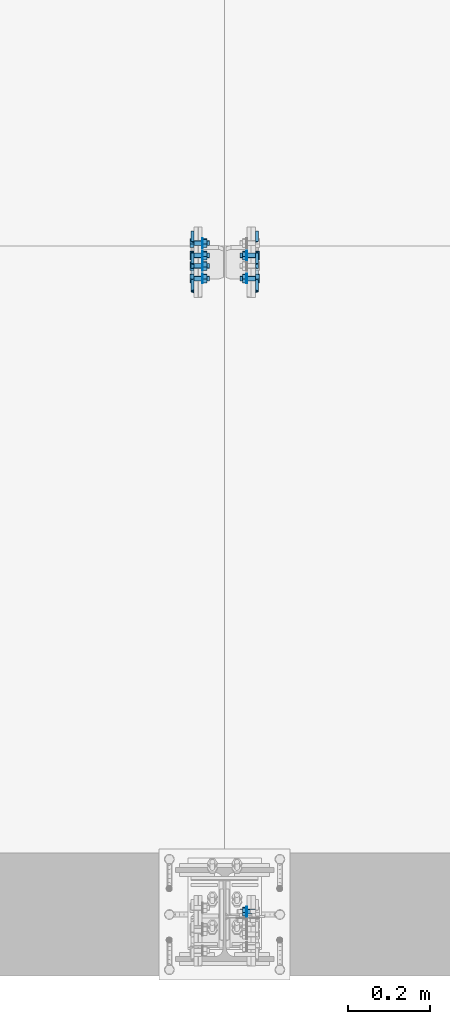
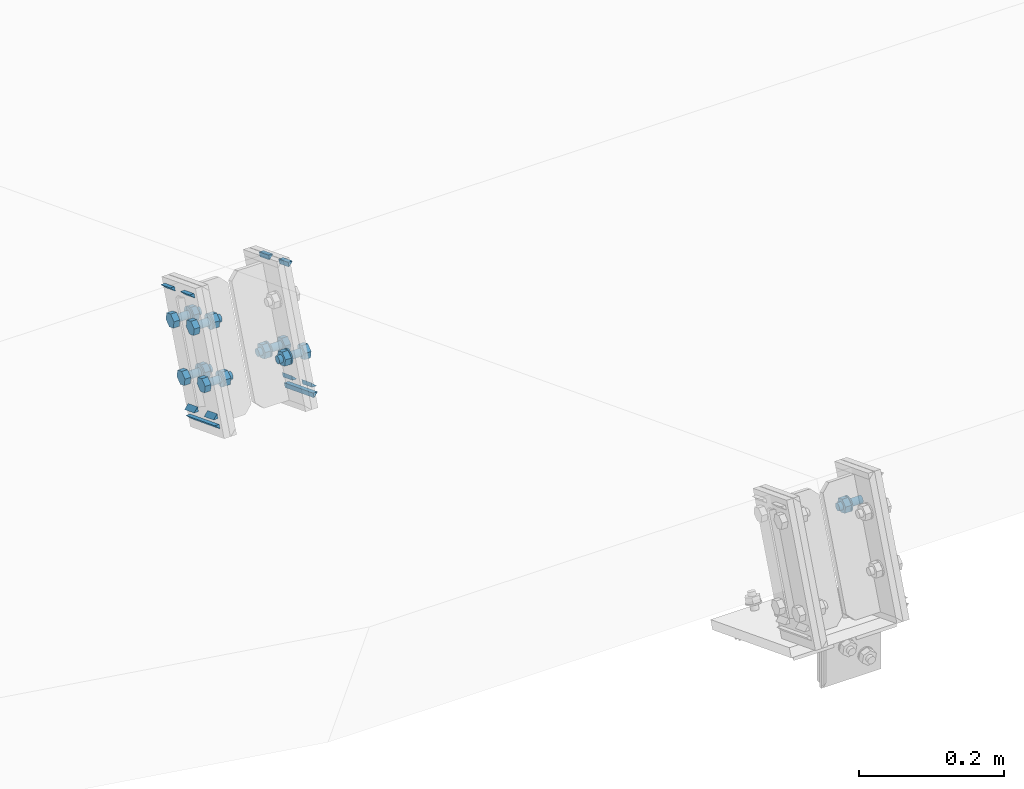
# One storey, part 56 of 72: 27 mechanical fasteners, 20 fasteners.
"""IFC4 building model written with IfcOpenShell, lengths in metres."""

from ifc_helpers import new_model, si_unit, frame, origin_with_axes, place, context, project, spatial, polyline, outline, extrude, type_object, element, save


model = new_model("IFC4")

# Units and contexts
model_context = context("Model", 3, precision=1e-05, world=origin_with_axes())
ifc_project = project(units=[si_unit("LENGTHUNIT", "METRE"), si_unit("AREAUNIT", "SQUARE_METRE"), si_unit("VOLUMEUNIT", "CUBIC_METRE"), si_unit("MASSUNIT", "GRAM", prefix="KILO"), si_unit("TIMEUNIT", "SECOND"), si_unit("PLANEANGLEUNIT", "RADIAN"), si_unit("SOLIDANGLEUNIT", "STERADIAN"), si_unit("THERMODYNAMICTEMPERATUREUNIT", "DEGREE_CELSIUS")], contexts=[model_context])

# Site, building, storey
placement_1 = place(None, origin_with_axes())
site = spatial("IfcSite", under=ifc_project, at=placement_1, Name="Italia", CompositionType="ELEMENT")
building = spatial("IfcBuilding", under=site, at=placement_1, Name="Uffici", CompositionType="ELEMENT")
storey = spatial("IfcBuildingStorey", under=building, at=placement_1, Name="Storey 0", CompositionType="ELEMENT", Elevation=0.0)

# Fasteners
fastener_type_1 = type_object("IfcFastenerType", Name="Collegamento -029_-028", PredefinedType="WELD")
placement_2 = place(placement_1, origin_with_axes())
fastener_1_placement = place(placement_2, origin_with_axes())
element("IfcFastener", 1, at=fastener_1_placement, inside=storey, type_object=fastener_type_1, Name="Collegamento -029_-028", context=model_context, shape_type="SweptSolid", body=[
    extrude(outline(polyline([(0.0, 0.0), (-0.00717354, 0.00695848), (0.0, 0.00695848), (0.0, 0.0)])), frame((9.38005, 1.6679, 6.57674), z_axis=(0.0, -0.932384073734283, 0.361469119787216), x_axis=(1.0, 0.0, 0.0)), (0.0, 0.0, 1.0), 0.0283),
])
fastener_type_2 = type_object("IfcFastenerType", Name="Collegamento -029_-028", PredefinedType="WELD")
fastener_2_placement = place(placement_2, origin_with_axes())
element("IfcFastener", 2, at=fastener_2_placement, inside=storey, type_object=fastener_type_2, Name="Collegamento -029_-028", context=model_context, shape_type="SweptSolid", body=[
    extrude(outline(polyline([(0.0, 0.0), (0.00717354, -0.00695848), (0.0, -0.00695848), (0.0, 0.0)])), frame((9.38005, 1.58036, 6.42922), z_axis=(0.0, 0.932390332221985, -0.361453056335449), x_axis=(-1.0, 0.0, 0.0)), (0.0, 0.0, 1.0), 0.0283),
])
fastener_type_3 = type_object("IfcFastenerType", Name="Collegamento -029_-028", PredefinedType="WELD")
fastener_3_placement = place(placement_2, origin_with_axes())
element("IfcFastener", 3, at=fastener_3_placement, inside=storey, type_object=fastener_type_3, Name="Collegamento -029_-028", context=model_context, shape_type="SweptSolid", body=[
    extrude(outline(polyline([(0.0, 0.0), (-0.00717354, 0.00695753), (0.0, 0.00695753), (0.0, 0.0)])), frame((9.38005, 1.59868, 6.39819), z_axis=(0.0, -0.932389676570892, 0.361454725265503), x_axis=(1.0, 0.0, 0.0)), (0.0, 0.0, 1.0), 0.0861),
])
fastener_type_4 = type_object("IfcFastenerType", Name="Collegamento -029_-028", PredefinedType="WELD")
fastener_4_placement = place(placement_2, origin_with_axes())
element("IfcFastener", 4, at=fastener_4_placement, inside=storey, type_object=fastener_type_4, Name="Collegamento -029_-028", context=model_context, shape_type="SweptSolid", body=[
    extrude(outline(polyline([(0.0, 0.0), (0.00717354, -0.00695848), (0.0, -0.00695848), (0.0, 0.0)])), frame((9.38005, 1.52647, 6.45012), z_axis=(0.0, 0.932391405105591, -0.3614501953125), x_axis=(-1.0, 0.0, 0.0)), (0.0, 0.0, 1.0), 0.0283002),
])
fastener_type_5 = type_object("IfcFastenerType", Name="Collegamento -029_-028", PredefinedType="WELD")
fastener_5_placement = place(placement_2, origin_with_axes())
element("IfcFastener", 5, at=fastener_5_placement, inside=storey, type_object=fastener_type_5, Name="Collegamento -029_-028", context=model_context, shape_type="SweptSolid", body=[
    extrude(outline(polyline([(0.0, 0.0), (-0.00717354, 0.00695753), (0.0, 0.00695753), (0.0, 0.0)])), frame((9.38005, 1.61401, 6.59763), z_axis=(0.0, -0.932389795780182, 0.361454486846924), x_axis=(1.0, 0.0, 0.0)), (0.0, 0.0, 1.0), 0.0282999),
])
fastener_type_6 = type_object("IfcFastenerType", Name="Collegamento -029_-028", PredefinedType="WELD")
fastener_6_placement = place(placement_2, origin_with_axes())
element("IfcFastener", 6, at=fastener_6_placement, inside=storey, type_object=fastener_type_6, Name="Collegamento -029_-028", context=model_context, shape_type="SweptSolid", body=[
    extrude(outline(polyline([(0.0, 0.0), (-0.00717354, 0.00695848), (0.0, 0.00695848), (0.0, 0.0)])), frame((9.38005, 1.6679, 6.57674), z_axis=(0.0, -0.932384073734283, 0.361469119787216), x_axis=(1.0, 0.0, 0.0)), (0.0, 0.0, 1.0), 0.0283),
])
fastener_type_7 = type_object("IfcFastenerType", Name="Collegamento -029_-028", PredefinedType="WELD")
fastener_7_placement = place(placement_2, origin_with_axes())
element("IfcFastener", 7, at=fastener_7_placement, inside=storey, type_object=fastener_type_7, Name="Collegamento -029_-028", context=model_context, shape_type="SweptSolid", body=[
    extrude(outline(polyline([(0.0, 0.0), (0.00717354, -0.00695848), (0.0, -0.00695848), (0.0, 0.0)])), frame((9.38005, 1.58036, 6.42922), z_axis=(0.0, 0.932390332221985, -0.361453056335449), x_axis=(-1.0, 0.0, 0.0)), (0.0, 0.0, 1.0), 0.0283),
])
fastener_type_8 = type_object("IfcFastenerType", Name="Collegamento -029_-028", PredefinedType="WELD")
fastener_8_placement = place(placement_2, origin_with_axes())
element("IfcFastener", 8, at=fastener_8_placement, inside=storey, type_object=fastener_type_8, Name="Collegamento -029_-028", context=model_context, shape_type="SweptSolid", body=[
    extrude(outline(polyline([(0.0, 0.0), (-0.00717354, 0.00695753), (0.0, 0.00695753), (0.0, 0.0)])), frame((9.38005, 1.59868, 6.39819), z_axis=(0.0, -0.932389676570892, 0.361454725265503), x_axis=(1.0, 0.0, 0.0)), (0.0, 0.0, 1.0), 0.0861),
])
fastener_type_9 = type_object("IfcFastenerType", Name="Collegamento -029_-028", PredefinedType="WELD")
fastener_9_placement = place(placement_2, origin_with_axes())
element("IfcFastener", 9, at=fastener_9_placement, inside=storey, type_object=fastener_type_9, Name="Collegamento -029_-028", context=model_context, shape_type="SweptSolid", body=[
    extrude(outline(polyline([(0.0, 0.0), (0.00717354, -0.00695848), (0.0, -0.00695848), (0.0, 0.0)])), frame((9.38005, 1.52647, 6.45012), z_axis=(0.0, 0.932391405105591, -0.3614501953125), x_axis=(-1.0, 0.0, 0.0)), (0.0, 0.0, 1.0), 0.0283002),
])
fastener_type_10 = type_object("IfcFastenerType", Name="Collegamento -029_-028", PredefinedType="WELD")
fastener_10_placement = place(placement_2, origin_with_axes())
element("IfcFastener", 10, at=fastener_10_placement, inside=storey, type_object=fastener_type_10, Name="Collegamento -029_-028", context=model_context, shape_type="SweptSolid", body=[
    extrude(outline(polyline([(0.0, 0.0), (-0.00717354, 0.00695753), (0.0, 0.00695753), (0.0, 0.0)])), frame((9.38005, 1.61401, 6.59763), z_axis=(0.0, -0.932389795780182, 0.361454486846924), x_axis=(1.0, 0.0, 0.0)), (0.0, 0.0, 1.0), 0.0282999),
])

# Mechanical fasteners
mechanical_fastener_type_1 = type_object("IfcMechanicalFastenerType", Name="Collegamento -029_-028", PredefinedType="BOLT")
mechanical_fastener_1_placement = place(placement_2, origin_with_axes())
element("IfcMechanicalFastener", 11, at=mechanical_fastener_1_placement, inside=storey, type_object=mechanical_fastener_type_1, Name="Collegamento -029_-028", NominalDiameter=0.0119998, context=model_context, shape_type="SweptSolid", body=[
    extrude(outline(polyline([(0.0, 0.0), (-0.0111887, -0.00433731), (-0.0205394, 0.00318336), (-0.0187016, 0.0150418), (-0.00751293, 0.0193796), (0.00183785, 0.0118585), (0.0, 0.0)])), frame((9.38, 1.60063, 6.4559), z_axis=(-1.0, 0.0, 0.0), x_axis=(0.0, -1.0, 0.0)), (0.0, 0.0, 1.0), 0.00959969),
])
mechanical_fastener_type_2 = type_object("IfcMechanicalFastenerType", Name="Collegamento -029_-028", PredefinedType="BOLT")
mechanical_fastener_2_placement = place(placement_2, origin_with_axes())
element("IfcMechanicalFastener", 12, at=mechanical_fastener_2_placement, inside=storey, type_object=mechanical_fastener_type_2, Name="Collegamento -029_-028", NominalDiameter=0.012, context=model_context, shape_type="SweptSolid", body=[
    extrude(outline(polyline([(0.0, 0.0), (-0.000204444, -0.00155306), (-0.000803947, -0.00299978), (-0.00175738, -0.00424242), (-0.00300002, -0.00519609), (-0.0044471, -0.00579548), (-0.00600004, -0.00600004), (-0.00755298, -0.00579548), (-0.00900006, -0.00519609), (-0.0102427, -0.00424242), (-0.0111961, -0.00299978), (-0.0117956, -0.00155306), (-0.0120001, 0.0), (-0.0117956, 0.00155306), (-0.0111961, 0.00299978), (-0.0102427, 0.00424242), (-0.00900006, 0.00519609), (-0.00755298, 0.00579548), (-0.00600004, 0.00600004), (-0.0044471, 0.00579548), (-0.00300002, 0.00519609), (-0.00175738, 0.00424242), (-0.000803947, 0.00299978), (-0.000204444, 0.00155306), (0.0, 0.0)])), frame((9.418, 1.60398, 6.46342), z_axis=(-1.0, 0.0, 0.0), x_axis=(0.0, -1.0, 0.0)), (0.0, 0.0, 1.0), 0.0380001),
])
mechanical_fastener_type_3 = type_object("IfcMechanicalFastenerType", Name="Collegamento -029_-028", PredefinedType="BOLT")
mechanical_fastener_3_placement = place(placement_2, origin_with_axes())
element("IfcMechanicalFastener", 13, at=mechanical_fastener_3_placement, inside=storey, type_object=mechanical_fastener_type_3, Name="Collegamento -029_-028", NominalDiameter=0.0119998, context=model_context, shape_type="SweptSolid", body=[
    extrude(outline(polyline([(0.0, 0.0), (-0.0111887, -0.00433731), (-0.0205394, 0.00318336), (-0.0187016, 0.0150418), (-0.00751293, 0.0193796), (0.00183785, 0.0118585), (0.0, 0.0)])), frame((9.4116, 1.60063, 6.4559), z_axis=(-1.0, 0.0, 0.0), x_axis=(0.0, -1.0, 0.0)), (0.0, 0.0, 1.0), 0.00959969),
])
mechanical_fastener_type_4 = type_object("IfcMechanicalFastenerType", Name="Collegamento -029_-028", PredefinedType="BOLT")
mechanical_fastener_4_placement = place(placement_2, origin_with_axes())
element("IfcMechanicalFastener", 14, at=mechanical_fastener_4_placement, inside=storey, type_object=mechanical_fastener_type_4, Name="Collegamento -029_-028", NominalDiameter=0.024, context=model_context, shape_type="SweptSolid", body=[
    extrude(outline(polyline([(0.0, 0.0), (-0.000408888, -0.00310564), (-0.00160766, -0.00600004), (-0.00351465, -0.00848532), (-0.00599992, -0.0103922), (-0.00889409, -0.011591), (-0.012, -0.0120001), (-0.0151058, -0.011591), (-0.018, -0.0103922), (-0.0204853, -0.00848532), (-0.0223923, -0.00600004), (-0.023591, -0.00310564), (-0.0239999, 0.0), (-0.023591, 0.00310564), (-0.0223923, 0.00600004), (-0.0204853, 0.00848532), (-0.018, 0.0103922), (-0.0151058, 0.011591), (-0.012, 0.0120001), (-0.00889409, 0.011591), (-0.00599992, 0.0103922), (-0.00351465, 0.00848532), (-0.00160766, 0.00600004), (-0.000408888, 0.00310564), (0.0, 0.0)])), frame((9.402, 1.59798, 6.46342), z_axis=(-1.0, 0.0, 0.0), x_axis=(0.0, -1.0, 0.0)), (0.0, 0.0, 1.0), 0.00199986),
])
mechanical_fastener_type_5 = type_object("IfcMechanicalFastenerType", Name="Collegamento -029_-028", PredefinedType="BOLT")
mechanical_fastener_5_placement = place(placement_2, origin_with_axes())
element("IfcMechanicalFastener", 15, at=mechanical_fastener_5_placement, inside=storey, type_object=mechanical_fastener_type_5, Name="Collegamento -029_-028", NominalDiameter=0.0119999, context=model_context, shape_type="SweptSolid", body=[
    extrude(outline(polyline([(0.0, 0.0), (-0.0111886, -0.00433779), (-0.0205393, 0.00318336), (-0.0187014, 0.0150418), (-0.00751281, 0.0193791), (0.00183797, 0.0118585), (0.0, 0.0)])), frame((9.38, 1.54468, 6.47759), z_axis=(-1.0, 0.0, 0.0), x_axis=(0.0, -1.0, 0.0)), (0.0, 0.0, 1.0), 0.00959969),
])
mechanical_fastener_type_6 = type_object("IfcMechanicalFastenerType", Name="Collegamento -029_-028", PredefinedType="BOLT")
mechanical_fastener_6_placement = place(placement_2, origin_with_axes())
element("IfcMechanicalFastener", 16, at=mechanical_fastener_6_placement, inside=storey, type_object=mechanical_fastener_type_6, Name="Collegamento -029_-028", NominalDiameter=0.012, context=model_context, shape_type="SweptSolid", body=[
    extrude(outline(polyline([(0.0, 0.0), (-0.000204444, -0.00155306), (-0.000803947, -0.00299978), (-0.00175738, -0.00424242), (-0.00300002, -0.00519609), (-0.0044471, -0.00579548), (-0.00600004, -0.00600004), (-0.00755298, -0.00579548), (-0.00900006, -0.00519609), (-0.0102427, -0.00424242), (-0.0111961, -0.00299978), (-0.0117956, -0.00155306), (-0.0120001, 0.0), (-0.0117956, 0.00155306), (-0.0111961, 0.00299978), (-0.0102427, 0.00424242), (-0.00900006, 0.00519609), (-0.00755298, 0.00579548), (-0.00600004, 0.00600004), (-0.0044471, 0.00579548), (-0.00300002, 0.00519609), (-0.00175738, 0.00424242), (-0.000803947, 0.00299978), (-0.000204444, 0.00155306), (0.0, 0.0)])), frame((9.418, 1.54803, 6.48511), z_axis=(-1.0, 0.0, 0.0), x_axis=(0.0, -1.0, 0.0)), (0.0, 0.0, 1.0), 0.0380001),
])
mechanical_fastener_type_7 = type_object("IfcMechanicalFastenerType", Name="Collegamento -029_-028", PredefinedType="BOLT")
mechanical_fastener_7_placement = place(placement_2, origin_with_axes())
element("IfcMechanicalFastener", 17, at=mechanical_fastener_7_placement, inside=storey, type_object=mechanical_fastener_type_7, Name="Collegamento -029_-028", NominalDiameter=0.0119999, context=model_context, shape_type="SweptSolid", body=[
    extrude(outline(polyline([(0.0, 0.0), (-0.0111886, -0.00433779), (-0.0205393, 0.00318336), (-0.0187014, 0.0150418), (-0.00751281, 0.0193791), (0.00183797, 0.0118585), (0.0, 0.0)])), frame((9.4116, 1.54468, 6.47759), z_axis=(-1.0, 0.0, 0.0), x_axis=(0.0, -1.0, 0.0)), (0.0, 0.0, 1.0), 0.00959969),
])
mechanical_fastener_type_8 = type_object("IfcMechanicalFastenerType", Name="Collegamento -029_-028", PredefinedType="BOLT")
mechanical_fastener_8_placement = place(placement_2, origin_with_axes())
element("IfcMechanicalFastener", 18, at=mechanical_fastener_8_placement, inside=storey, type_object=mechanical_fastener_type_8, Name="Collegamento -029_-028", NominalDiameter=0.024, context=model_context, shape_type="SweptSolid", body=[
    extrude(outline(polyline([(0.0, 0.0), (-0.000408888, -0.00310564), (-0.00160766, -0.00600004), (-0.00351465, -0.00848532), (-0.00599992, -0.0103922), (-0.00889409, -0.011591), (-0.012, -0.0120001), (-0.0151058, -0.011591), (-0.018, -0.0103922), (-0.0204853, -0.00848532), (-0.0223923, -0.00600004), (-0.023591, -0.00310564), (-0.0239999, 0.0), (-0.023591, 0.00310564), (-0.0223923, 0.00600004), (-0.0204853, 0.00848532), (-0.018, 0.0103922), (-0.0151058, 0.011591), (-0.012, 0.0120001), (-0.00889409, 0.011591), (-0.00599992, 0.0103922), (-0.00351465, 0.00848532), (-0.00160766, 0.00600004), (-0.000408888, 0.00310564), (0.0, 0.0)])), frame((9.402, 1.54203, 6.48511), z_axis=(-1.0, 0.0, 0.0), x_axis=(0.0, -1.0, 0.0)), (0.0, 0.0, 1.0), 0.00199986),
])
mechanical_fastener_type_9 = type_object("IfcMechanicalFastenerType", Name="Collegamento -029_-028", PredefinedType="BOLT")
mechanical_fastener_9_placement = place(placement_2, origin_with_axes())
element("IfcMechanicalFastener", 19, at=mechanical_fastener_9_placement, inside=storey, type_object=mechanical_fastener_type_9, Name="Collegamento -029_-028", NominalDiameter=0.0119999, context=model_context, shape_type="SweptSolid", body=[
    extrude(outline(polyline([(0.0, 0.0), (-0.0111886, -0.00433731), (-0.0205394, 0.00318336), (-0.0187014, 0.0150418), (-0.00751281, 0.0193796), (0.00183785, 0.0118585), (0.0, 0.0)])), frame((9.38, 1.63099, 6.53422), z_axis=(-1.0, 0.0, 0.0), x_axis=(0.0, -1.0, 0.0)), (0.0, 0.0, 1.0), 0.00959969),
])
mechanical_fastener_type_10 = type_object("IfcMechanicalFastenerType", Name="Collegamento -029_-028", PredefinedType="BOLT")
mechanical_fastener_10_placement = place(placement_2, origin_with_axes())
element("IfcMechanicalFastener", 20, at=mechanical_fastener_10_placement, inside=storey, type_object=mechanical_fastener_type_10, Name="Collegamento -029_-028", NominalDiameter=0.012, context=model_context, shape_type="SweptSolid", body=[
    extrude(outline(polyline([(0.0, 0.0), (-0.000204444, -0.00155306), (-0.000803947, -0.00299978), (-0.00175738, -0.00424242), (-0.00300002, -0.00519609), (-0.0044471, -0.00579548), (-0.00600004, -0.00600004), (-0.00755298, -0.00579548), (-0.00900006, -0.00519609), (-0.0102427, -0.00424242), (-0.0111961, -0.00299978), (-0.0117956, -0.00155306), (-0.0120001, 0.0), (-0.0117956, 0.00155306), (-0.0111961, 0.00299978), (-0.0102427, 0.00424242), (-0.00900006, 0.00519609), (-0.00755298, 0.00579548), (-0.00600004, 0.00600004), (-0.0044471, 0.00579548), (-0.00300002, 0.00519609), (-0.00175738, 0.00424242), (-0.000803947, 0.00299978), (-0.000204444, 0.00155306), (0.0, 0.0)])), frame((9.418, 1.63434, 6.54174), z_axis=(-1.0, 0.0, 0.0), x_axis=(0.0, -1.0, 0.0)), (0.0, 0.0, 1.0), 0.0380001),
])
mechanical_fastener_type_11 = type_object("IfcMechanicalFastenerType", Name="Collegamento -029_-028", PredefinedType="BOLT")
mechanical_fastener_11_placement = place(placement_2, origin_with_axes())
element("IfcMechanicalFastener", 21, at=mechanical_fastener_11_placement, inside=storey, type_object=mechanical_fastener_type_11, Name="Collegamento -029_-028", NominalDiameter=0.0119999, context=model_context, shape_type="SweptSolid", body=[
    extrude(outline(polyline([(0.0, 0.0), (-0.0111886, -0.00433731), (-0.0205394, 0.00318336), (-0.0187014, 0.0150418), (-0.00751281, 0.0193796), (0.00183785, 0.0118585), (0.0, 0.0)])), frame((9.4116, 1.63099, 6.53422), z_axis=(-1.0, 0.0, 0.0), x_axis=(0.0, -1.0, 0.0)), (0.0, 0.0, 1.0), 0.00959969),
])
mechanical_fastener_type_12 = type_object("IfcMechanicalFastenerType", Name="Collegamento -029_-028", PredefinedType="BOLT")
mechanical_fastener_12_placement = place(placement_2, origin_with_axes())
element("IfcMechanicalFastener", 22, at=mechanical_fastener_12_placement, inside=storey, type_object=mechanical_fastener_type_12, Name="Collegamento -029_-028", NominalDiameter=0.024, context=model_context, shape_type="SweptSolid", body=[
    extrude(outline(polyline([(0.0, 0.0), (-0.000408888, -0.00310564), (-0.00160766, -0.00600004), (-0.00351465, -0.00848532), (-0.00599992, -0.0103922), (-0.00889409, -0.011591), (-0.012, -0.0120001), (-0.0151058, -0.011591), (-0.018, -0.0103922), (-0.0204853, -0.00848532), (-0.0223923, -0.00600004), (-0.023591, -0.00310564), (-0.0239999, 0.0), (-0.023591, 0.00310564), (-0.0223923, 0.00600004), (-0.0204853, 0.00848532), (-0.018, 0.0103922), (-0.0151058, 0.011591), (-0.012, 0.0120001), (-0.00889409, 0.011591), (-0.00599992, 0.0103922), (-0.00351465, 0.00848532), (-0.00160766, 0.00600004), (-0.000408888, 0.00310564), (0.0, 0.0)])), frame((9.402, 1.62834, 6.54174), z_axis=(-1.0, 0.0, 0.0), x_axis=(0.0, -1.0, 0.0)), (0.0, 0.0, 1.0), 0.00199986),
])
mechanical_fastener_type_13 = type_object("IfcMechanicalFastenerType", Name="Collegamento -029_-028", PredefinedType="BOLT")
mechanical_fastener_13_placement = place(placement_2, origin_with_axes())
element("IfcMechanicalFastener", 23, at=mechanical_fastener_13_placement, inside=storey, type_object=mechanical_fastener_type_13, Name="Collegamento -029_-028", NominalDiameter=0.0119998, context=model_context, shape_type="SweptSolid", body=[
    extrude(outline(polyline([(0.0, 0.0), (-0.0111886, -0.00433779), (-0.0205394, 0.00318336), (-0.0187016, 0.0150418), (-0.00751281, 0.0193791), (0.00183785, 0.0118585), (0.0, 0.0)])), frame((9.38, 1.57505, 6.55591), z_axis=(-1.0, 0.0, 0.0), x_axis=(0.0, -1.0, 0.0)), (0.0, 0.0, 1.0), 0.00959969),
])
mechanical_fastener_type_14 = type_object("IfcMechanicalFastenerType", Name="Collegamento -029_-028", PredefinedType="BOLT")
mechanical_fastener_14_placement = place(placement_2, origin_with_axes())
element("IfcMechanicalFastener", 24, at=mechanical_fastener_14_placement, inside=storey, type_object=mechanical_fastener_type_14, Name="Collegamento -029_-028", NominalDiameter=0.012, context=model_context, shape_type="SweptSolid", body=[
    extrude(outline(polyline([(0.0, 0.0), (-0.000204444, -0.00155306), (-0.000803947, -0.00299978), (-0.00175738, -0.00424242), (-0.00300002, -0.00519609), (-0.0044471, -0.00579548), (-0.00600004, -0.00600004), (-0.00755298, -0.00579548), (-0.00900006, -0.00519609), (-0.0102427, -0.00424242), (-0.0111961, -0.00299978), (-0.0117956, -0.00155306), (-0.0120001, 0.0), (-0.0117956, 0.00155306), (-0.0111961, 0.00299978), (-0.0102427, 0.00424242), (-0.00900006, 0.00519609), (-0.00755298, 0.00579548), (-0.00600004, 0.00600004), (-0.0044471, 0.00579548), (-0.00300002, 0.00519609), (-0.00175738, 0.00424242), (-0.000803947, 0.00299978), (-0.000204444, 0.00155306), (0.0, 0.0)])), frame((9.418, 1.5784, 6.56343), z_axis=(-1.0, 0.0, 0.0), x_axis=(0.0, -1.0, 0.0)), (0.0, 0.0, 1.0), 0.0380001),
])
mechanical_fastener_type_15 = type_object("IfcMechanicalFastenerType", Name="Collegamento -029_-028", PredefinedType="BOLT")
mechanical_fastener_15_placement = place(placement_2, origin_with_axes())
element("IfcMechanicalFastener", 25, at=mechanical_fastener_15_placement, inside=storey, type_object=mechanical_fastener_type_15, Name="Collegamento -029_-028", NominalDiameter=0.0119998, context=model_context, shape_type="SweptSolid", body=[
    extrude(outline(polyline([(0.0, 0.0), (-0.0111886, -0.00433779), (-0.0205394, 0.00318336), (-0.0187016, 0.0150418), (-0.00751281, 0.0193791), (0.00183785, 0.0118585), (0.0, 0.0)])), frame((9.4116, 1.57505, 6.55591), z_axis=(-1.0, 0.0, 0.0), x_axis=(0.0, -1.0, 0.0)), (0.0, 0.0, 1.0), 0.00959969),
])
mechanical_fastener_type_16 = type_object("IfcMechanicalFastenerType", Name="Collegamento -029_-028", PredefinedType="BOLT")
mechanical_fastener_16_placement = place(placement_2, origin_with_axes())
element("IfcMechanicalFastener", 26, at=mechanical_fastener_16_placement, inside=storey, type_object=mechanical_fastener_type_16, Name="Collegamento -029_-028", NominalDiameter=0.024, context=model_context, shape_type="SweptSolid", body=[
    extrude(outline(polyline([(0.0, 0.0), (-0.000408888, -0.00310564), (-0.00160766, -0.00600004), (-0.00351465, -0.00848532), (-0.00599992, -0.0103922), (-0.00889409, -0.011591), (-0.012, -0.0120001), (-0.0151058, -0.011591), (-0.018, -0.0103922), (-0.0204853, -0.00848532), (-0.0223923, -0.00600004), (-0.023591, -0.00310564), (-0.0239999, 0.0), (-0.023591, 0.00310564), (-0.0223923, 0.00600004), (-0.0204853, 0.00848532), (-0.018, 0.0103922), (-0.0151058, 0.011591), (-0.012, 0.0120001), (-0.00889409, 0.011591), (-0.00599992, 0.0103922), (-0.00351465, 0.00848532), (-0.00160766, 0.00600004), (-0.000408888, 0.00310564), (0.0, 0.0)])), frame((9.402, 1.5724, 6.56343), z_axis=(-1.0, 0.0, 0.0), x_axis=(0.0, -1.0, 0.0)), (0.0, 0.0, 1.0), 0.00199986),
])

# Fasteners
fastener_type_11 = type_object("IfcFastenerType", Name="Collegamento -029_-030", PredefinedType="WELD")
fastener_11_placement = place(placement_2, origin_with_axes())
element("IfcFastener", 27, at=fastener_11_placement, inside=storey, type_object=fastener_type_11, Name="Collegamento -029_-030", context=model_context, shape_type="SweptSolid", body=[
    extrude(outline(polyline([(0.0, 0.0), (-0.00717354, 0.00695801), (0.0, 0.00695801), (0.0, 0.0)])), frame((9.52995, 1.64152, 6.58697), z_axis=(0.0, 0.932384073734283, -0.361469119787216), x_axis=(-1.0, 0.0, 0.0)), (0.0, 0.0, 1.0), 0.0283),
])
fastener_type_12 = type_object("IfcFastenerType", Name="Collegamento -029_-030", PredefinedType="WELD")
fastener_12_placement = place(placement_2, origin_with_axes())
element("IfcFastener", 28, at=fastener_12_placement, inside=storey, type_object=fastener_type_12, Name="Collegamento -029_-030", context=model_context, shape_type="SweptSolid", body=[
    extrude(outline(polyline([(0.0, 0.0), (0.00717354, -0.00695848), (0.0, -0.00695848), (0.0, 0.0)])), frame((9.52995, 1.60675, 6.41899), z_axis=(0.0, -0.932390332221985, 0.361453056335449), x_axis=(1.0, 0.0, 0.0)), (0.0, 0.0, 1.0), 0.0283),
])
fastener_type_13 = type_object("IfcFastenerType", Name="Collegamento -029_-030", PredefinedType="WELD")
fastener_13_placement = place(placement_2, origin_with_axes())
element("IfcFastener", 29, at=fastener_13_placement, inside=storey, type_object=fastener_type_13, Name="Collegamento -029_-030", context=model_context, shape_type="SweptSolid", body=[
    extrude(outline(polyline([(0.0, 0.0), (-0.00717354, 0.00695848), (0.0, 0.00695848), (0.0, 0.0)])), frame((9.52995, 1.5184, 6.42931), z_axis=(0.0, 0.932389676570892, -0.361454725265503), x_axis=(-1.0, 0.0, 0.0)), (0.0, 0.0, 1.0), 0.0861),
])
fastener_type_14 = type_object("IfcFastenerType", Name="Collegamento -029_-030", PredefinedType="WELD")
fastener_14_placement = place(placement_2, origin_with_axes())
element("IfcFastener", 30, at=fastener_14_placement, inside=storey, type_object=fastener_type_14, Name="Collegamento -029_-030", context=model_context, shape_type="SweptSolid", body=[
    extrude(outline(polyline([(0.0, 0.0), (0.00717354, -0.00695801), (0.0, -0.00695801), (0.0, 0.0)])), frame((9.52995, 1.55286, 6.43989), z_axis=(0.0, -0.932391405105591, 0.3614501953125), x_axis=(1.0, 0.0, 0.0)), (0.0, 0.0, 1.0), 0.0283002),
])
fastener_type_15 = type_object("IfcFastenerType", Name="Collegamento -029_-030", PredefinedType="WELD")
fastener_15_placement = place(placement_2, origin_with_axes())
element("IfcFastener", 31, at=fastener_15_placement, inside=storey, type_object=fastener_type_15, Name="Collegamento -029_-030", context=model_context, shape_type="SweptSolid", body=[
    extrude(outline(polyline([(0.0, 0.0), (-0.00717354, 0.00695801), (0.0, 0.00695801), (0.0, 0.0)])), frame((9.52995, 1.58762, 6.60786), z_axis=(0.0, 0.932389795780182, -0.361454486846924), x_axis=(-1.0, 0.0, 0.0)), (0.0, 0.0, 1.0), 0.0282999),
])
fastener_type_16 = type_object("IfcFastenerType", Name="Collegamento -029_-030", PredefinedType="WELD")
fastener_16_placement = place(placement_2, origin_with_axes())
element("IfcFastener", 32, at=fastener_16_placement, inside=storey, type_object=fastener_type_16, Name="Collegamento -029_-030", context=model_context, shape_type="SweptSolid", body=[
    extrude(outline(polyline([(0.0, 0.0), (-0.00717354, 0.00695801), (0.0, 0.00695801), (0.0, 0.0)])), frame((9.52995, 1.64152, 6.58697), z_axis=(0.0, 0.932384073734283, -0.361469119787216), x_axis=(-1.0, 0.0, 0.0)), (0.0, 0.0, 1.0), 0.0283),
])
fastener_type_17 = type_object("IfcFastenerType", Name="Collegamento -029_-030", PredefinedType="WELD")
fastener_17_placement = place(placement_2, origin_with_axes())
element("IfcFastener", 33, at=fastener_17_placement, inside=storey, type_object=fastener_type_17, Name="Collegamento -029_-030", context=model_context, shape_type="SweptSolid", body=[
    extrude(outline(polyline([(0.0, 0.0), (0.00717354, -0.00695848), (0.0, -0.00695848), (0.0, 0.0)])), frame((9.52995, 1.60675, 6.41899), z_axis=(0.0, -0.932390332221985, 0.361453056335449), x_axis=(1.0, 0.0, 0.0)), (0.0, 0.0, 1.0), 0.0283),
])
fastener_type_18 = type_object("IfcFastenerType", Name="Collegamento -029_-030", PredefinedType="WELD")
fastener_18_placement = place(placement_2, origin_with_axes())
element("IfcFastener", 34, at=fastener_18_placement, inside=storey, type_object=fastener_type_18, Name="Collegamento -029_-030", context=model_context, shape_type="SweptSolid", body=[
    extrude(outline(polyline([(0.0, 0.0), (-0.00717354, 0.00695848), (0.0, 0.00695848), (0.0, 0.0)])), frame((9.52995, 1.5184, 6.42931), z_axis=(0.0, 0.932389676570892, -0.361454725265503), x_axis=(-1.0, 0.0, 0.0)), (0.0, 0.0, 1.0), 0.0861),
])
fastener_type_19 = type_object("IfcFastenerType", Name="Collegamento -029_-030", PredefinedType="WELD")
fastener_19_placement = place(placement_2, origin_with_axes())
element("IfcFastener", 35, at=fastener_19_placement, inside=storey, type_object=fastener_type_19, Name="Collegamento -029_-030", context=model_context, shape_type="SweptSolid", body=[
    extrude(outline(polyline([(0.0, 0.0), (0.00717354, -0.00695801), (0.0, -0.00695801), (0.0, 0.0)])), frame((9.52995, 1.55286, 6.43989), z_axis=(0.0, -0.932391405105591, 0.3614501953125), x_axis=(1.0, 0.0, 0.0)), (0.0, 0.0, 1.0), 0.0283002),
])
fastener_type_20 = type_object("IfcFastenerType", Name="Collegamento -029_-030", PredefinedType="WELD")
fastener_20_placement = place(placement_2, origin_with_axes())
element("IfcFastener", 36, at=fastener_20_placement, inside=storey, type_object=fastener_type_20, Name="Collegamento -029_-030", context=model_context, shape_type="SweptSolid", body=[
    extrude(outline(polyline([(0.0, 0.0), (-0.00717354, 0.00695801), (0.0, 0.00695801), (0.0, 0.0)])), frame((9.52995, 1.58762, 6.60786), z_axis=(0.0, 0.932389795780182, -0.361454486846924), x_axis=(-1.0, 0.0, 0.0)), (0.0, 0.0, 1.0), 0.0282999),
])

# Mechanical fasteners
mechanical_fastener_type_17 = type_object("IfcMechanicalFastenerType", Name="Collegamento -029_-030", PredefinedType="BOLT")
mechanical_fastener_17_placement = place(placement_2, origin_with_axes())
element("IfcMechanicalFastener", 37, at=mechanical_fastener_17_placement, inside=storey, type_object=mechanical_fastener_type_17, Name="Collegamento -029_-030", NominalDiameter=0.0119999, context=model_context, shape_type="SweptSolid", body=[
    extrude(outline(polyline([(0.0, 0.0), (-0.0111886, 0.00433779), (-0.0130266, 0.0161963), (-0.00367582, 0.0237169), (0.00751281, 0.0193796), (0.00935066, 0.00752115), (0.0, 0.0)])), frame((9.53, 1.55587, 6.47325), z_axis=(1.0, 0.0, 0.0), x_axis=(0.0, 1.0, 0.0)), (0.0, 0.0, 1.0), 0.00959969),
])
mechanical_fastener_type_18 = type_object("IfcMechanicalFastenerType", Name="Collegamento -029_-030", PredefinedType="BOLT")
mechanical_fastener_18_placement = place(placement_2, origin_with_axes())
element("IfcMechanicalFastener", 38, at=mechanical_fastener_18_placement, inside=storey, type_object=mechanical_fastener_type_18, Name="Collegamento -029_-030", NominalDiameter=0.012, context=model_context, shape_type="SweptSolid", body=[
    extrude(outline(polyline([(0.0, 0.0), (-0.000204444, -0.00155306), (-0.000803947, -0.00299978), (-0.00175738, -0.00424242), (-0.00300002, -0.00519609), (-0.0044471, -0.00579548), (-0.00600004, -0.00600004), (-0.00755298, -0.00579548), (-0.00900006, -0.00519609), (-0.0102427, -0.00424242), (-0.0111961, -0.00299978), (-0.0117956, -0.00155306), (-0.0120001, 0.0), (-0.0117956, 0.00155306), (-0.0111961, 0.00299978), (-0.0102427, 0.00424242), (-0.00900006, 0.00519609), (-0.00755298, 0.00579548), (-0.00600004, 0.00600004), (-0.0044471, 0.00579548), (-0.00300002, 0.00519609), (-0.00175738, 0.00424242), (-0.000803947, 0.00299978), (-0.000204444, 0.00155306), (0.0, 0.0)])), frame((9.492, 1.56003, 6.48511), z_axis=(1.0, 0.0, 0.0), x_axis=(0.0, 1.0, 0.0)), (0.0, 0.0, 1.0), 0.0380001),
])
mechanical_fastener_type_19 = type_object("IfcMechanicalFastenerType", Name="Collegamento -029_-030", PredefinedType="BOLT")
mechanical_fastener_19_placement = place(placement_2, origin_with_axes())
element("IfcMechanicalFastener", 39, at=mechanical_fastener_19_placement, inside=storey, type_object=mechanical_fastener_type_19, Name="Collegamento -029_-030", NominalDiameter=0.0119999, context=model_context, shape_type="SweptSolid", body=[
    extrude(outline(polyline([(0.0, 0.0), (-0.0111886, 0.00433779), (-0.0130266, 0.0161963), (-0.00367582, 0.0237169), (0.00751281, 0.0193796), (0.00935066, 0.00752115), (0.0, 0.0)])), frame((9.4984, 1.55587, 6.47325), z_axis=(1.0, 0.0, 0.0), x_axis=(0.0, 1.0, 0.0)), (0.0, 0.0, 1.0), 0.00959969),
])
mechanical_fastener_type_20 = type_object("IfcMechanicalFastenerType", Name="Collegamento -029_-030", PredefinedType="BOLT")
mechanical_fastener_20_placement = place(placement_2, origin_with_axes())
element("IfcMechanicalFastener", 40, at=mechanical_fastener_20_placement, inside=storey, type_object=mechanical_fastener_type_20, Name="Collegamento -029_-030", NominalDiameter=0.024, context=model_context, shape_type="SweptSolid", body=[
    extrude(outline(polyline([(0.0, 0.0), (-0.000408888, -0.00310564), (-0.00160766, -0.00600004), (-0.00351465, -0.00848532), (-0.00599992, -0.0103922), (-0.00889409, -0.011591), (-0.012, -0.0120001), (-0.0151058, -0.011591), (-0.018, -0.0103922), (-0.0204853, -0.00848532), (-0.0223923, -0.00600004), (-0.023591, -0.00310564), (-0.0239999, 0.0), (-0.023591, 0.00310564), (-0.0223923, 0.00600004), (-0.0204853, 0.00848532), (-0.018, 0.0103922), (-0.0151058, 0.011591), (-0.012, 0.0120001), (-0.00889409, 0.011591), (-0.00599992, 0.0103922), (-0.00351465, 0.00848532), (-0.00160766, 0.00600004), (-0.000408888, 0.00310564), (0.0, 0.0)])), frame((9.508, 1.56603, 6.48511), z_axis=(1.0, 0.0, 0.0), x_axis=(0.0, 1.0, 0.0)), (0.0, 0.0, 1.0), 0.00199986),
])
mechanical_fastener_type_21 = type_object("IfcMechanicalFastenerType", Name="Collegamento -029_-030", PredefinedType="BOLT")
mechanical_fastener_21_placement = place(placement_2, origin_with_axes())
element("IfcMechanicalFastener", 41, at=mechanical_fastener_21_placement, inside=storey, type_object=mechanical_fastener_type_21, Name="Collegamento -029_-030", NominalDiameter=0.0119998, context=model_context, shape_type="SweptSolid", body=[
    extrude(outline(polyline([(0.0, 0.0), (-0.0111887, 0.00433731), (-0.0130266, 0.0161958), (-0.00367582, 0.0237169), (0.00751281, 0.0193791), (0.00935066, 0.00752068), (0.0, 0.0)])), frame((9.53, 1.61182, 6.45157), z_axis=(1.0, 0.0, 0.0), x_axis=(0.0, 1.0, 0.0)), (0.0, 0.0, 1.0), 0.00959969),
])
mechanical_fastener_type_22 = type_object("IfcMechanicalFastenerType", Name="Collegamento -029_-030", PredefinedType="BOLT")
mechanical_fastener_22_placement = place(placement_2, origin_with_axes())
element("IfcMechanicalFastener", 42, at=mechanical_fastener_22_placement, inside=storey, type_object=mechanical_fastener_type_22, Name="Collegamento -029_-030", NominalDiameter=0.012, context=model_context, shape_type="SweptSolid", body=[
    extrude(outline(polyline([(0.0, 0.0), (-0.000204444, -0.00155306), (-0.000803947, -0.00299978), (-0.00175738, -0.00424242), (-0.00300002, -0.00519609), (-0.0044471, -0.00579548), (-0.00600004, -0.00600004), (-0.00755298, -0.00579548), (-0.00900006, -0.00519609), (-0.0102427, -0.00424242), (-0.0111961, -0.00299978), (-0.0117956, -0.00155306), (-0.0120001, 0.0), (-0.0117956, 0.00155306), (-0.0111961, 0.00299978), (-0.0102427, 0.00424242), (-0.00900006, 0.00519609), (-0.00755298, 0.00579548), (-0.00600004, 0.00600004), (-0.0044471, 0.00579548), (-0.00300002, 0.00519609), (-0.00175738, 0.00424242), (-0.000803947, 0.00299978), (-0.000204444, 0.00155306), (0.0, 0.0)])), frame((9.492, 1.61598, 6.46342), z_axis=(1.0, 0.0, 0.0), x_axis=(0.0, 1.0, 0.0)), (0.0, 0.0, 1.0), 0.0380001),
])
mechanical_fastener_type_23 = type_object("IfcMechanicalFastenerType", Name="Collegamento -029_-030", PredefinedType="BOLT")
mechanical_fastener_23_placement = place(placement_2, origin_with_axes())
element("IfcMechanicalFastener", 43, at=mechanical_fastener_23_placement, inside=storey, type_object=mechanical_fastener_type_23, Name="Collegamento -029_-030", NominalDiameter=0.0119998, context=model_context, shape_type="SweptSolid", body=[
    extrude(outline(polyline([(0.0, 0.0), (-0.0111887, 0.00433731), (-0.0130266, 0.0161958), (-0.00367582, 0.0237169), (0.00751281, 0.0193791), (0.00935066, 0.00752068), (0.0, 0.0)])), frame((9.4984, 1.61182, 6.45157), z_axis=(1.0, 0.0, 0.0), x_axis=(0.0, 1.0, 0.0)), (0.0, 0.0, 1.0), 0.00959969),
])
mechanical_fastener_type_24 = type_object("IfcMechanicalFastenerType", Name="Collegamento -029_-030", PredefinedType="BOLT")
mechanical_fastener_24_placement = place(placement_2, origin_with_axes())
element("IfcMechanicalFastener", 44, at=mechanical_fastener_24_placement, inside=storey, type_object=mechanical_fastener_type_24, Name="Collegamento -029_-030", NominalDiameter=0.024, context=model_context, shape_type="SweptSolid", body=[
    extrude(outline(polyline([(0.0, 0.0), (-0.000408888, -0.00310564), (-0.00160766, -0.00600004), (-0.00351465, -0.00848532), (-0.00599992, -0.0103922), (-0.00889409, -0.011591), (-0.012, -0.0120001), (-0.0151058, -0.011591), (-0.018, -0.0103922), (-0.0204853, -0.00848532), (-0.0223923, -0.00600004), (-0.023591, -0.00310564), (-0.0239999, 0.0), (-0.023591, 0.00310564), (-0.0223923, 0.00600004), (-0.0204853, 0.00848532), (-0.018, 0.0103922), (-0.0151058, 0.011591), (-0.012, 0.0120001), (-0.00889409, 0.011591), (-0.00599992, 0.0103922), (-0.00351465, 0.00848532), (-0.00160766, 0.00600004), (-0.000408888, 0.00310564), (0.0, 0.0)])), frame((9.508, 1.62198, 6.46342), z_axis=(1.0, 0.0, 0.0), x_axis=(0.0, 1.0, 0.0)), (0.0, 0.0, 1.0), 0.00199986),
])
mechanical_fastener_type_25 = type_object("IfcMechanicalFastenerType", Name="Collegamento 0204_0205", PredefinedType="BOLT")
mechanical_fastener_25_placement = place(placement_2, origin_with_axes())
element("IfcMechanicalFastener", 45, at=mechanical_fastener_25_placement, inside=storey, type_object=mechanical_fastener_type_25, Name="Collegamento 0204_0205", NominalDiameter=0.012, context=model_context, shape_type="SweptSolid", body=[
    extrude(outline(polyline([(0.0, 0.0), (-0.000204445, -0.00155306), (-0.000803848, -0.00299978), (-0.00175736, -0.00424242), (-0.003, -0.00519609), (-0.00444709, -0.00579548), (-0.006, -0.00600004), (-0.00755292, -0.00579548), (-0.009, -0.00519609), (-0.0102426, -0.00424242), (-0.0111962, -0.00299978), (-0.0117956, -0.00155306), (-0.012, 0.0), (-0.0117956, 0.00155306), (-0.0111962, 0.00299978), (-0.0102426, 0.00424242), (-0.009, 0.00519609), (-0.00755291, 0.00579548), (-0.006, 0.00600004), (-0.00444709, 0.00579548), (-0.003, 0.00519609), (-0.00175736, 0.00424242), (-0.000803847, 0.00299978), (-0.000204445, 0.00155306), (0.0, 0.0)])), frame((9.492, 0.0130068, 7.17508), z_axis=(1.0, 0.0, 0.0), x_axis=(0.0, 1.0, 0.0)), (0.0, 0.0, 1.0), 0.0380001),
])
mechanical_fastener_type_26 = type_object("IfcMechanicalFastenerType", Name="Collegamento 0204_0205", PredefinedType="BOLT")
mechanical_fastener_26_placement = place(placement_2, origin_with_axes())
element("IfcMechanicalFastener", 46, at=mechanical_fastener_26_placement, inside=storey, type_object=mechanical_fastener_type_26, Name="Collegamento 0204_0205", NominalDiameter=0.0119999, context=model_context, shape_type="SweptSolid", body=[
    extrude(outline(polyline([(0.0, 0.0), (-0.0111886, 0.00433731), (-0.0130265, 0.0161958), (-0.0036758, 0.0237169), (0.00751284, 0.0193791), (0.00935074, 0.00752068), (0.0, 0.0)])), frame((9.4984, 0.00884473, 7.16322), z_axis=(1.0, 0.0, 0.0), x_axis=(0.0, 1.0, 0.0)), (0.0, 0.0, 1.0), 0.00959969),
])
mechanical_fastener_type_27 = type_object("IfcMechanicalFastenerType", Name="Collegamento 0204_0205", PredefinedType="BOLT")
mechanical_fastener_27_placement = place(placement_2, origin_with_axes())
element("IfcMechanicalFastener", 47, at=mechanical_fastener_27_placement, inside=storey, type_object=mechanical_fastener_type_27, Name="Collegamento 0204_0205", NominalDiameter=0.024, context=model_context, shape_type="SweptSolid", body=[
    extrude(outline(polyline([(0.0, 0.0), (-0.00040889, -0.00310564), (-0.0016077, -0.00600004), (-0.00351472, -0.00848532), (-0.006, -0.0103922), (-0.00889417, -0.011591), (-0.012, -0.0120001), (-0.0151058, -0.011591), (-0.018, -0.0103922), (-0.0204853, -0.00848532), (-0.0223923, -0.00600004), (-0.0235911, -0.00310564), (-0.024, 0.0), (-0.0235911, 0.00310564), (-0.0223923, 0.00600004), (-0.0204853, 0.00848532), (-0.018, 0.0103922), (-0.0151058, 0.011591), (-0.012, 0.0120001), (-0.00889417, 0.011591), (-0.006, 0.0103922), (-0.00351472, 0.00848532), (-0.00160769, 0.00600004), (-0.00040889, 0.00310564), (0.0, 0.0)])), frame((9.508, 0.0190068, 7.17508), z_axis=(1.0, 0.0, 0.0), x_axis=(0.0, 1.0, 0.0)), (0.0, 0.0, 1.0), 0.00199986),
])

save(model, "model.ifc")
